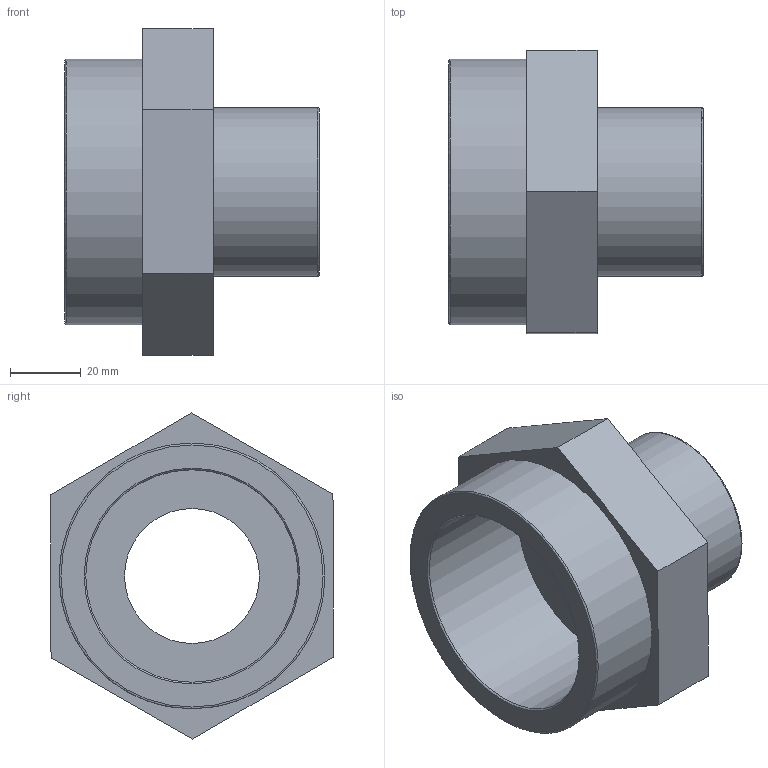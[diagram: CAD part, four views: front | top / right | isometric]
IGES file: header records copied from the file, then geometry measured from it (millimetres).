
Global section: file name: 051601025015.ipt; native system: Autodesk Inventor 2015; preprocessor: unknown; author: KIM; date: 20171207.165306; units: millimetre
Bounding box: 72 x 80.17 x 92.38 mm (x, y, z)
Volume: 118691.3 mm3; surface area: 35017 mm2
Topology: 1 solids, 1 shells, 19 faces, 50 edges, 36 vertices
Faces by surface type: plane 11, revolution 6, cylinder 2
Full cylindrical faces by diameter (mm): 47.803 x1, 75.184 x1
